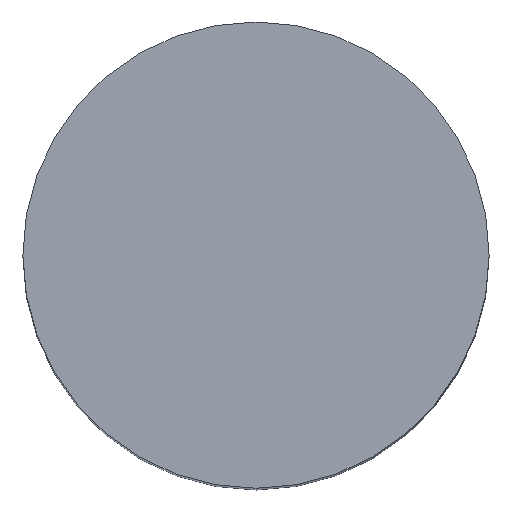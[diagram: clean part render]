
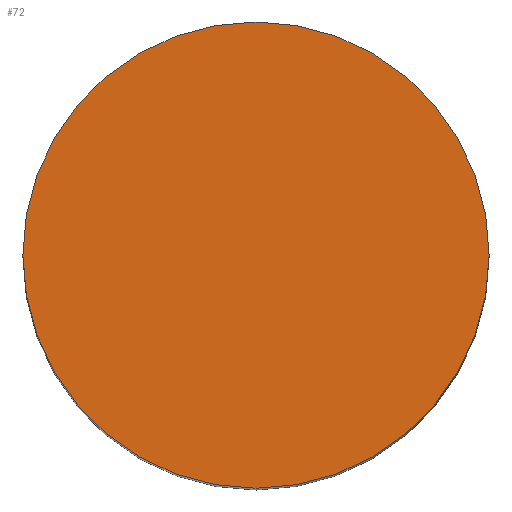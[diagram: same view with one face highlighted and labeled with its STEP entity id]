
A CAD part, top view. The second image highlights one B-rep face of the part: STEP entity #72.
In plain terms, the highlighted planar face has unit normal (0, 0, 1).
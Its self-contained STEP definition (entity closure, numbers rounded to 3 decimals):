
#72=ADVANCED_FACE($,(#78),#74,.T.);
#74=PLANE($,#99);
#78=FACE_OUTER_BOUND($,#82,.T.);
#82=EDGE_LOOP($,(#92));
#83=CIRCLE($,#96,2.502);
#85=VERTEX_POINT($,#114);
#87=EDGE_CURVE($,#85,#85,#83,.T.);
#92=ORIENTED_EDGE($,*,*,#87,.T.);
#96=AXIS2_PLACEMENT_3D($,#115,#104,#105);
#99=AXIS2_PLACEMENT_3D($,#119,#110,#111);
#104=DIRECTION('center_axis',(0.,0.,1.));
#105=DIRECTION('ref_axis',(1.,0.,0.));
#110=DIRECTION('center_axis',(0.,0.,1.));
#111=DIRECTION('ref_axis',(0.,1.,0.));
#114=CARTESIAN_POINT('',(-3.505,0.0,10.744));
#115=CARTESIAN_POINT('Origin',(-1.003,0.0,10.744));
#119=CARTESIAN_POINT('Origin',(-1.003,0.0,10.744));
